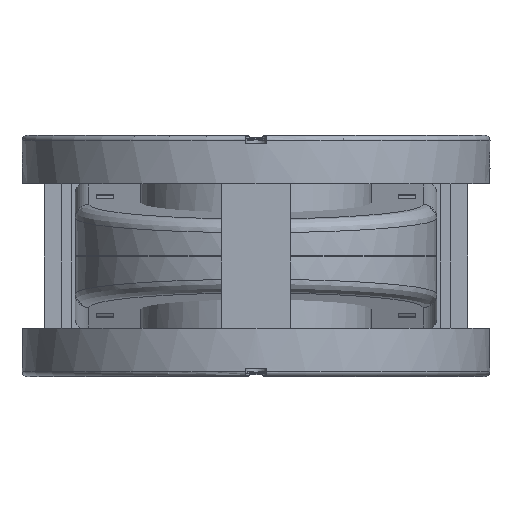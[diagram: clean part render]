
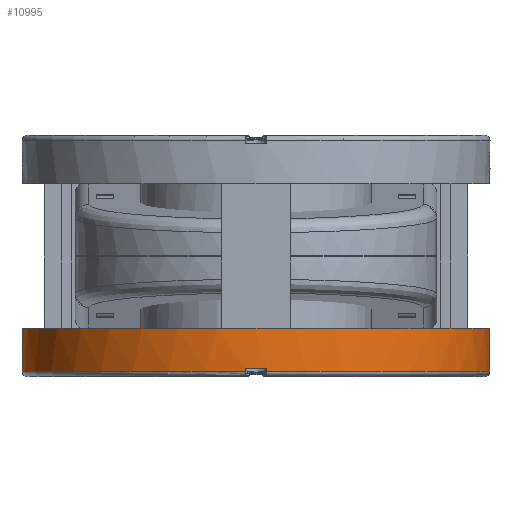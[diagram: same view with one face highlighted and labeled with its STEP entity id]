
A CAD part, front view. The second image highlights one B-rep face of the part: STEP entity #10995.
In plain terms, the highlighted cylindrical face has radius 67.9 mm (diameter 135.8 mm), a full revolution.
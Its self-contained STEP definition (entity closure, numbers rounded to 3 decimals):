
#5257=CYLINDRICAL_SURFACE('',#31087,67.9);
#5730=CIRCLE('',#31081,67.9);
#5731=CIRCLE('',#31083,67.9);
#5732=CIRCLE('',#31084,67.9);
#5733=CIRCLE('',#31085,67.9);
#5734=CIRCLE('',#31086,67.9);
#6659=ELLIPSE('',#31082,68.159,67.9);
#6864=LINE('',#41245,#8484);
#6865=LINE('',#41249,#8485);
#6866=LINE('',#41253,#8486);
#6867=LINE('',#41257,#8487);
#8484=VECTOR('',#33936,1.);
#8485=VECTOR('',#33939,1.);
#8486=VECTOR('',#33942,1.);
#8487=VECTOR('',#33945,1.);
#10073=FACE_BOUND('',#14374,.T.);
#10074=FACE_BOUND('',#14375,.T.);
#10995=ADVANCED_FACE('',(#10073,#10074),#5257,.T.);
#14374=EDGE_LOOP('',(#16914,#16915));
#14375=EDGE_LOOP('',(#16916,#16917,#16918,#16919,#16920,#16921,#16922,#16923));
#16914=ORIENTED_EDGE('',*,*,#26527,.F.);
#16915=ORIENTED_EDGE('',*,*,#26528,.T.);
#16916=ORIENTED_EDGE('',*,*,#26529,.F.);
#16917=ORIENTED_EDGE('',*,*,#26530,.T.);
#16918=ORIENTED_EDGE('',*,*,#26531,.T.);
#16919=ORIENTED_EDGE('',*,*,#26532,.T.);
#16920=ORIENTED_EDGE('',*,*,#26533,.F.);
#16921=ORIENTED_EDGE('',*,*,#26534,.T.);
#16922=ORIENTED_EDGE('',*,*,#26535,.T.);
#16923=ORIENTED_EDGE('',*,*,#26536,.T.);
#23802=VERTEX_POINT('',#41239);
#23803=VERTEX_POINT('',#41240);
#23804=VERTEX_POINT('',#41243);
#23805=VERTEX_POINT('',#41244);
#23806=VERTEX_POINT('',#41246);
#23807=VERTEX_POINT('',#41248);
#23808=VERTEX_POINT('',#41250);
#23809=VERTEX_POINT('',#41252);
#23810=VERTEX_POINT('',#41254);
#23811=VERTEX_POINT('',#41256);
#26527=EDGE_CURVE('',#23802,#23803,#5730,.T.);
#26528=EDGE_CURVE('',#23802,#23803,#6659,.T.);
#26529=EDGE_CURVE('',#23804,#23805,#5731,.T.);
#26530=EDGE_CURVE('',#23804,#23806,#6864,.T.);
#26531=EDGE_CURVE('',#23806,#23807,#5732,.T.);
#26532=EDGE_CURVE('',#23807,#23808,#6865,.T.);
#26533=EDGE_CURVE('',#23809,#23808,#5733,.T.);
#26534=EDGE_CURVE('',#23809,#23810,#6866,.T.);
#26535=EDGE_CURVE('',#23810,#23811,#5734,.T.);
#26536=EDGE_CURVE('',#23811,#23805,#6867,.T.);
#31081=AXIS2_PLACEMENT_3D('',#41238,#33930,#33931);
#31082=AXIS2_PLACEMENT_3D('',#41241,#33932,#33933);
#31083=AXIS2_PLACEMENT_3D('',#41242,#33934,#33935);
#31084=AXIS2_PLACEMENT_3D('',#41247,#33937,#33938);
#31085=AXIS2_PLACEMENT_3D('',#41251,#33940,#33941);
#31086=AXIS2_PLACEMENT_3D('',#41255,#33943,#33944);
#31087=AXIS2_PLACEMENT_3D('',#41258,#33946,#33947);
#33930=DIRECTION('',(1.,0.,0.));
#33931=DIRECTION('',(0.,1.,0.));
#33932=DIRECTION('',(-0.996,-0.087,0.));
#33933=DIRECTION('',(0.087,-0.996,0.));
#33934=DIRECTION('',(-1.,0.,0.));
#33935=DIRECTION('',(0.,0.,-1.));
#33936=DIRECTION('',(-1.,0.,0.));
#33937=DIRECTION('',(1.,0.,0.));
#33938=DIRECTION('',(0.,1.,0.));
#33939=DIRECTION('',(1.,0.,0.));
#33940=DIRECTION('',(-1.,0.,0.));
#33941=DIRECTION('',(0.,0.,-1.));
#33942=DIRECTION('',(-1.,0.,0.));
#33943=DIRECTION('',(1.,0.,0.));
#33944=DIRECTION('',(0.,1.,0.));
#33945=DIRECTION('',(1.,0.,0.));
#33946=DIRECTION('',(1.,0.,0.));
#33947=DIRECTION('',(0.,1.,0.));
#41238=CARTESIAN_POINT('',(14.,0.,0.));
#41239=CARTESIAN_POINT('',(14.,61.784,28.163));
#41240=CARTESIAN_POINT('',(14.,61.784,-28.163));
#41241=CARTESIAN_POINT('',(19.405,0.,0.));
#41242=CARTESIAN_POINT('',(2.5,0.,0.));
#41243=CARTESIAN_POINT('',(2.5,67.834,3.));
#41244=CARTESIAN_POINT('',(2.5,67.834,-3.));
#41245=CARTESIAN_POINT('',(21.4,67.834,3.));
#41246=CARTESIAN_POINT('',(1.5,67.834,3.));
#41247=CARTESIAN_POINT('',(1.5,0.,0.));
#41248=CARTESIAN_POINT('',(1.5,-67.834,3.));
#41249=CARTESIAN_POINT('',(21.4,-67.834,3.));
#41250=CARTESIAN_POINT('',(2.5,-67.834,3.));
#41251=CARTESIAN_POINT('',(2.5,0.,0.));
#41252=CARTESIAN_POINT('',(2.5,-67.834,-3.));
#41253=CARTESIAN_POINT('',(21.4,-67.834,-3.));
#41254=CARTESIAN_POINT('',(1.5,-67.834,-3.));
#41255=CARTESIAN_POINT('',(1.5,0.,0.));
#41256=CARTESIAN_POINT('',(1.5,67.834,-3.));
#41257=CARTESIAN_POINT('',(21.4,67.834,-3.));
#41258=CARTESIAN_POINT('',(21.4,0.,0.));
